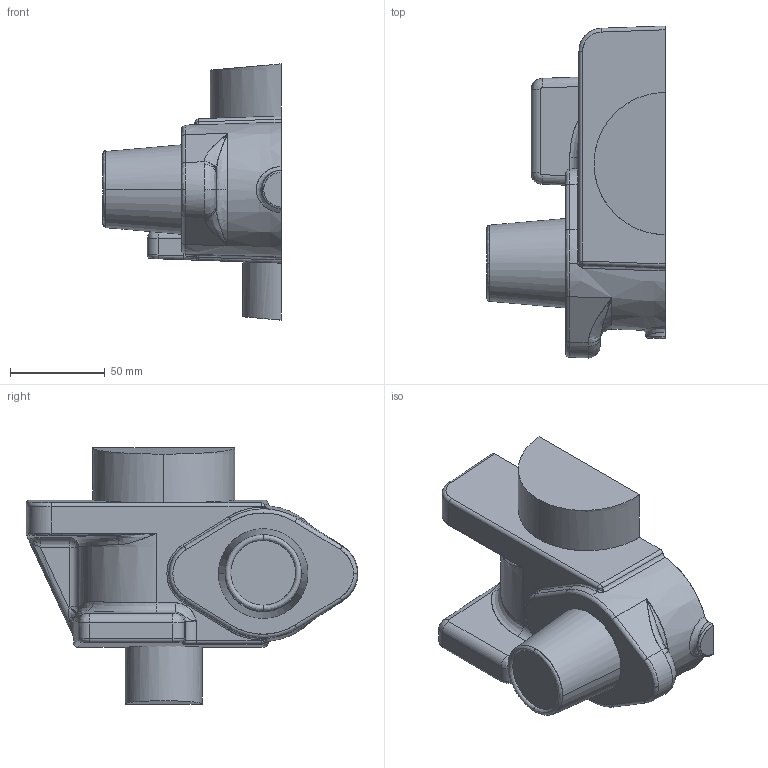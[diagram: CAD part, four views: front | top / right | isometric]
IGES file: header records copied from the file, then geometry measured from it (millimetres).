
Start section: SolidWorks IGES FILE using analytic representation for surfaces
Global section: file name: C:\Documents and Settings\MD\Bureau\DossierNouveau\Modèle\DemiModèleDO.IGS; native system: SolidWorks 2004 by SolidWorks Corporation; preprocessor: Version 5.3; author: MD; date: 061029.075938; units: millimetre
Bounding box: 94.02 x 175.24 x 135.29 mm (x, y, z)
Surface area: 60593.4 mm2 (no closed solid volume)
Topology: 0 solids, 0 shells, 126 faces, 1569 edges, 1564 vertices
Faces by surface type: bspline 73, revolution 53
